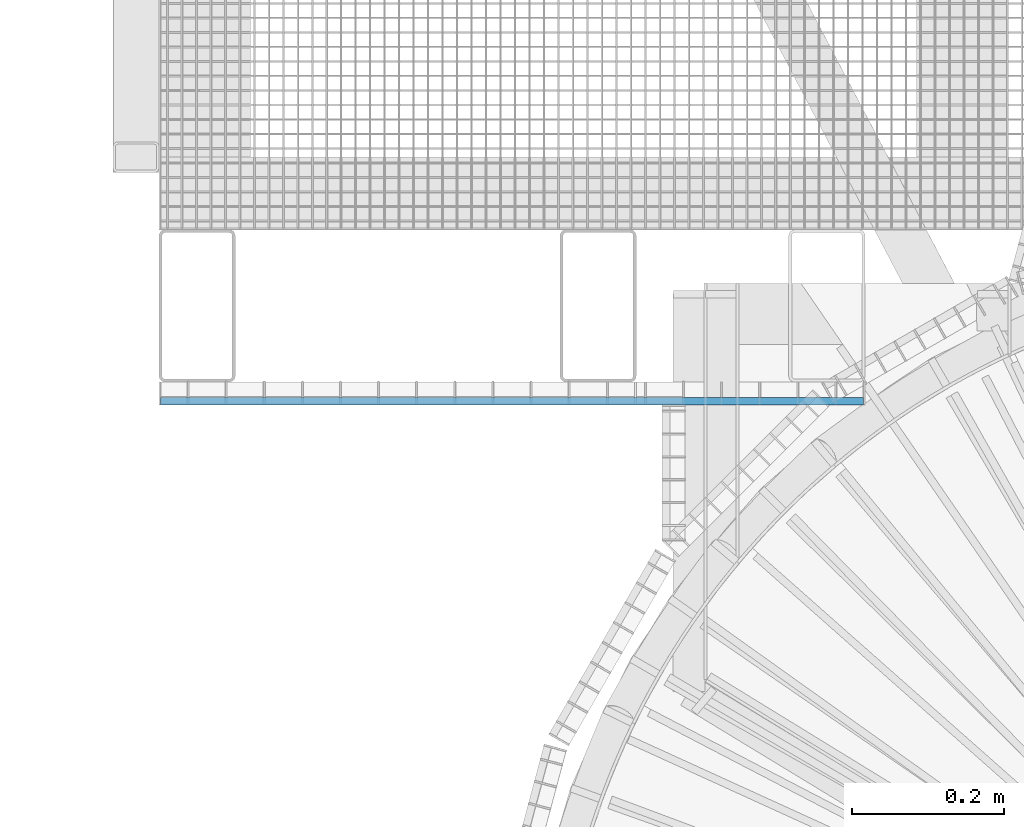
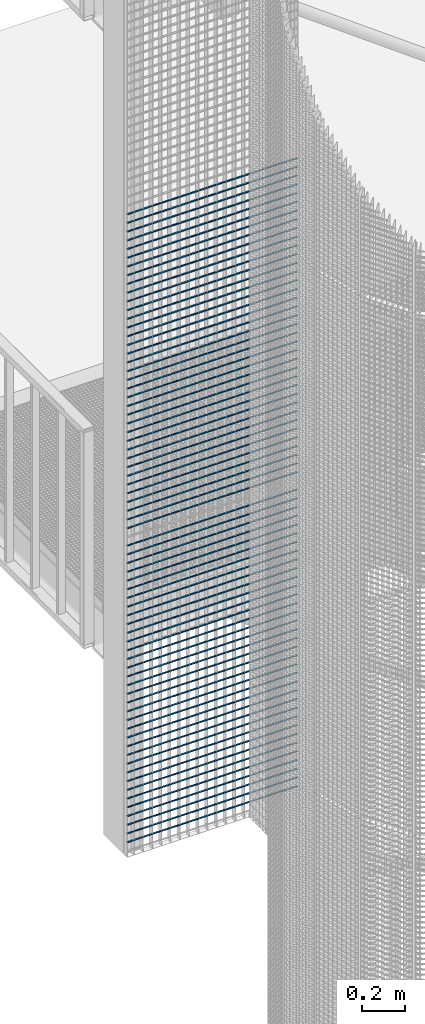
# One storey, part 215 of 1183: 72 beams, 1 element without a shape of its own.
"""IFC2X3 building model written with IfcOpenShell, lengths in millimetres."""

from ifc_helpers import new_model, si_unit, frame, origin_with_axes, origin_2d_with_axis, place, context, subcontext, project, spatial, rectangle, extrude, material, type_object, element, aggregate, save


model = new_model("IFC2X3")

# Units and contexts
model_context = context("Model", 3, precision=1e-05, world=origin_with_axes())
body_context = subcontext(model_context, "Body", "Model", "MODEL_VIEW")
ifc_project = project(units=[si_unit("LENGTHUNIT", "METRE", prefix="MILLI"), si_unit("AREAUNIT", "SQUARE_METRE"), si_unit("VOLUMEUNIT", "CUBIC_METRE"), si_unit("MASSUNIT", "GRAM", prefix="KILO"), si_unit("TIMEUNIT", "SECOND"), si_unit("PLANEANGLEUNIT", "RADIAN"), si_unit("SOLIDANGLEUNIT", "STERADIAN"), si_unit("THERMODYNAMICTEMPERATUREUNIT", "DEGREE_CELSIUS"), si_unit("LUMINOUSINTENSITYUNIT", "LUMEN")], contexts=[model_context])

# Site, building, storey
site_placement = place(None, origin_with_axes())
site = spatial("IfcSite", under=ifc_project, at=site_placement, Name="Undefined", CompositionType="ELEMENT")
building_placement = place(site_placement, origin_with_axes())
building = spatial("IfcBuilding", under=site, at=building_placement, Name="Undefined", CompositionType="ELEMENT")
storey_placement = place(building_placement, origin_with_axes())
storey = spatial("IfcBuildingStorey", under=building, at=storey_placement, Name="Undefined", CompositionType="ELEMENT", Elevation=0.0)

# Assembly, beams
assembly_placement = place(storey_placement, origin_with_axes())
assembly = element("IfcElementAssembly", 1, at=assembly_placement, inside=storey, Name="BORDURE", AssemblyPlace="NOTDEFINED", PredefinedType="NOTDEFINED")
ifc_material = material(Name="STEEL/S235JR")
beam_type = type_object("IfcBeamType", Name="PL2*10", PredefinedType="NOTDEFINED")
beam_1_placement = place(assembly_placement, frame((-1547.92041016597, 874.994689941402, 8854.998), z_axis=(0.0, -1.0, 0.0), x_axis=(1.0, 0.0, 0.0)))
beam_1 = element("IfcBeam", 2, at=beam_1_placement, type_object=beam_type, material=ifc_material, Name="ENTRETOISE", context=body_context, shape_type="SweptSolid", body=[
    extrude(rectangle(XDim=2.0, YDim=10.0, at=origin_2d_with_axis()), frame((922.0, 0.0, 0.0), z_axis=(-1.0, 0.0, 0.0), x_axis=(0.0, -1.0, 0.0)), (0.0, 0.0, 1.0), 922.0),
])
beam_2_placement = place(assembly_placement, frame((-1547.92041016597, 874.994689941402, 8804.998), z_axis=(0.0, -1.0, 0.0), x_axis=(1.0, 0.0, 0.0)))
beam_2 = element("IfcBeam", 3, at=beam_2_placement, type_object=beam_type, material=ifc_material, Name="ENTRETOISE", context=body_context, shape_type="SweptSolid", body=[
    extrude(rectangle(XDim=2.0, YDim=10.0, at=origin_2d_with_axis()), frame((922.0, 0.0, 0.0), z_axis=(-1.0, 0.0, 0.0), x_axis=(0.0, -1.0, 0.0)), (0.0, 0.0, 1.0), 922.0),
])
beam_3_placement = place(assembly_placement, frame((-1547.92041016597, 874.994689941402, 8754.998), z_axis=(0.0, -1.0, 0.0), x_axis=(1.0, 0.0, 0.0)))
beam_3 = element("IfcBeam", 4, at=beam_3_placement, type_object=beam_type, material=ifc_material, Name="ENTRETOISE", context=body_context, shape_type="SweptSolid", body=[
    extrude(rectangle(XDim=2.0, YDim=10.0, at=origin_2d_with_axis()), frame((922.0, 0.0, 0.0), z_axis=(-1.0, 0.0, 0.0), x_axis=(0.0, -1.0, 0.0)), (0.0, 0.0, 1.0), 922.0),
])
beam_4_placement = place(assembly_placement, frame((-1547.92041016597, 874.994689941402, 8704.998), z_axis=(0.0, -1.0, 0.0), x_axis=(1.0, 0.0, 0.0)))
beam_4 = element("IfcBeam", 5, at=beam_4_placement, type_object=beam_type, material=ifc_material, Name="ENTRETOISE", context=body_context, shape_type="SweptSolid", body=[
    extrude(rectangle(XDim=2.0, YDim=10.0, at=origin_2d_with_axis()), frame((922.0, 0.0, 0.0), z_axis=(-1.0, 0.0, 0.0), x_axis=(0.0, -1.0, 0.0)), (0.0, 0.0, 1.0), 922.0),
])
beam_5_placement = place(assembly_placement, frame((-1547.92041016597, 874.994689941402, 8654.998), z_axis=(0.0, -1.0, 0.0), x_axis=(1.0, 0.0, 0.0)))
beam_5 = element("IfcBeam", 6, at=beam_5_placement, type_object=beam_type, material=ifc_material, Name="ENTRETOISE", context=body_context, shape_type="SweptSolid", body=[
    extrude(rectangle(XDim=2.0, YDim=10.0, at=origin_2d_with_axis()), frame((922.0, 0.0, 0.0), z_axis=(-1.0, 0.0, 0.0), x_axis=(0.0, -1.0, 0.0)), (0.0, 0.0, 1.0), 922.0),
])
beam_6_placement = place(assembly_placement, frame((-1547.92041016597, 874.994689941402, 8604.998), z_axis=(0.0, -1.0, 0.0), x_axis=(1.0, 0.0, 0.0)))
beam_6 = element("IfcBeam", 7, at=beam_6_placement, type_object=beam_type, material=ifc_material, Name="ENTRETOISE", context=body_context, shape_type="SweptSolid", body=[
    extrude(rectangle(XDim=2.0, YDim=10.0, at=origin_2d_with_axis()), frame((922.0, 0.0, 0.0), z_axis=(-1.0, 0.0, 0.0), x_axis=(0.0, -1.0, 0.0)), (0.0, 0.0, 1.0), 922.0),
])
beam_7_placement = place(assembly_placement, frame((-1547.92041016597, 874.994689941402, 8554.998), z_axis=(0.0, -1.0, 0.0), x_axis=(1.0, 0.0, 0.0)))
beam_7 = element("IfcBeam", 8, at=beam_7_placement, type_object=beam_type, material=ifc_material, Name="ENTRETOISE", context=body_context, shape_type="SweptSolid", body=[
    extrude(rectangle(XDim=2.0, YDim=10.0, at=origin_2d_with_axis()), frame((922.0, 0.0, 0.0), z_axis=(-1.0, 0.0, 0.0), x_axis=(0.0, -1.0, 0.0)), (0.0, 0.0, 1.0), 922.0),
])
beam_8_placement = place(assembly_placement, frame((-1547.92041016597, 874.994689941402, 8504.998), z_axis=(0.0, -1.0, 0.0), x_axis=(1.0, 0.0, 0.0)))
beam_8 = element("IfcBeam", 9, at=beam_8_placement, type_object=beam_type, material=ifc_material, Name="ENTRETOISE", context=body_context, shape_type="SweptSolid", body=[
    extrude(rectangle(XDim=2.0, YDim=10.0, at=origin_2d_with_axis()), frame((922.0, 0.0, 0.0), z_axis=(-1.0, 0.0, 0.0), x_axis=(0.0, -1.0, 0.0)), (0.0, 0.0, 1.0), 922.0),
])
beam_9_placement = place(assembly_placement, frame((-1547.92041016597, 874.994689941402, 8454.998), z_axis=(0.0, -1.0, 0.0), x_axis=(1.0, 0.0, 0.0)))
beam_9 = element("IfcBeam", 10, at=beam_9_placement, type_object=beam_type, material=ifc_material, Name="ENTRETOISE", context=body_context, shape_type="SweptSolid", body=[
    extrude(rectangle(XDim=2.0, YDim=10.0, at=origin_2d_with_axis()), frame((922.0, 0.0, 0.0), z_axis=(-1.0, 0.0, 0.0), x_axis=(0.0, -1.0, 0.0)), (0.0, 0.0, 1.0), 922.0),
])
beam_10_placement = place(assembly_placement, frame((-1547.92041016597, 874.994689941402, 8404.998), z_axis=(0.0, -1.0, 0.0), x_axis=(1.0, 0.0, 0.0)))
beam_10 = element("IfcBeam", 11, at=beam_10_placement, type_object=beam_type, material=ifc_material, Name="ENTRETOISE", context=body_context, shape_type="SweptSolid", body=[
    extrude(rectangle(XDim=2.0, YDim=10.0, at=origin_2d_with_axis()), frame((922.0, 0.0, 0.0), z_axis=(-1.0, 0.0, 0.0), x_axis=(0.0, -1.0, 0.0)), (0.0, 0.0, 1.0), 922.0),
])
beam_11_placement = place(assembly_placement, frame((-1547.92041016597, 874.994689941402, 8354.998), z_axis=(0.0, -1.0, 0.0), x_axis=(1.0, 0.0, 0.0)))
beam_11 = element("IfcBeam", 12, at=beam_11_placement, type_object=beam_type, material=ifc_material, Name="ENTRETOISE", context=body_context, shape_type="SweptSolid", body=[
    extrude(rectangle(XDim=2.0, YDim=10.0, at=origin_2d_with_axis()), frame((922.0, 0.0, 0.0), z_axis=(-1.0, 0.0, 0.0), x_axis=(0.0, -1.0, 0.0)), (0.0, 0.0, 1.0), 922.0),
])
beam_12_placement = place(assembly_placement, frame((-1547.92041016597, 874.994689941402, 8304.998), z_axis=(0.0, -1.0, 0.0), x_axis=(1.0, 0.0, 0.0)))
beam_12 = element("IfcBeam", 13, at=beam_12_placement, type_object=beam_type, material=ifc_material, Name="ENTRETOISE", context=body_context, shape_type="SweptSolid", body=[
    extrude(rectangle(XDim=2.0, YDim=10.0, at=origin_2d_with_axis()), frame((922.0, 0.0, 0.0), z_axis=(-1.0, 0.0, 0.0), x_axis=(0.0, -1.0, 0.0)), (0.0, 0.0, 1.0), 922.0),
])
beam_13_placement = place(assembly_placement, frame((-1547.92041016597, 874.994689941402, 8254.998), z_axis=(0.0, -1.0, 0.0), x_axis=(1.0, 0.0, 0.0)))
beam_13 = element("IfcBeam", 14, at=beam_13_placement, type_object=beam_type, material=ifc_material, Name="ENTRETOISE", context=body_context, shape_type="SweptSolid", body=[
    extrude(rectangle(XDim=2.0, YDim=10.0, at=origin_2d_with_axis()), frame((922.0, 0.0, 0.0), z_axis=(-1.0, 0.0, 0.0), x_axis=(0.0, -1.0, 0.0)), (0.0, 0.0, 1.0), 922.0),
])
beam_14_placement = place(assembly_placement, frame((-1547.92041016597, 874.994689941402, 8204.998), z_axis=(0.0, -1.0, 0.0), x_axis=(1.0, 0.0, 0.0)))
beam_14 = element("IfcBeam", 15, at=beam_14_placement, type_object=beam_type, material=ifc_material, Name="ENTRETOISE", context=body_context, shape_type="SweptSolid", body=[
    extrude(rectangle(XDim=2.0, YDim=10.0, at=origin_2d_with_axis()), frame((922.0, 0.0, 0.0), z_axis=(-1.0, 0.0, 0.0), x_axis=(0.0, -1.0, 0.0)), (0.0, 0.0, 1.0), 922.0),
])
beam_15_placement = place(assembly_placement, frame((-1547.92041016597, 874.994689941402, 8154.998), z_axis=(0.0, -1.0, 0.0), x_axis=(1.0, 0.0, 0.0)))
beam_15 = element("IfcBeam", 16, at=beam_15_placement, type_object=beam_type, material=ifc_material, Name="ENTRETOISE", context=body_context, shape_type="SweptSolid", body=[
    extrude(rectangle(XDim=2.0, YDim=10.0, at=origin_2d_with_axis()), frame((922.0, 0.0, 0.0), z_axis=(-1.0, 0.0, 0.0), x_axis=(0.0, -1.0, 0.0)), (0.0, 0.0, 1.0), 922.0),
])
beam_16_placement = place(assembly_placement, frame((-1547.92041016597, 874.994689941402, 8104.998), z_axis=(0.0, -1.0, 0.0), x_axis=(1.0, 0.0, 0.0)))
beam_16 = element("IfcBeam", 17, at=beam_16_placement, type_object=beam_type, material=ifc_material, Name="ENTRETOISE", context=body_context, shape_type="SweptSolid", body=[
    extrude(rectangle(XDim=2.0, YDim=10.0, at=origin_2d_with_axis()), frame((922.0, 0.0, 0.0), z_axis=(-1.0, 0.0, 0.0), x_axis=(0.0, -1.0, 0.0)), (0.0, 0.0, 1.0), 922.0),
])
beam_17_placement = place(assembly_placement, frame((-1547.92041016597, 874.994689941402, 8054.998), z_axis=(0.0, -1.0, 0.0), x_axis=(1.0, 0.0, 0.0)))
beam_17 = element("IfcBeam", 18, at=beam_17_placement, type_object=beam_type, material=ifc_material, Name="ENTRETOISE", context=body_context, shape_type="SweptSolid", body=[
    extrude(rectangle(XDim=2.0, YDim=10.0, at=origin_2d_with_axis()), frame((922.0, 0.0, 0.0), z_axis=(-1.0, 0.0, 0.0), x_axis=(0.0, -1.0, 0.0)), (0.0, 0.0, 1.0), 922.0),
])
beam_18_placement = place(assembly_placement, frame((-1547.92041016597, 874.994689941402, 8004.998), z_axis=(0.0, -1.0, 0.0), x_axis=(1.0, 0.0, 0.0)))
beam_18 = element("IfcBeam", 19, at=beam_18_placement, type_object=beam_type, material=ifc_material, Name="ENTRETOISE", context=body_context, shape_type="SweptSolid", body=[
    extrude(rectangle(XDim=2.0, YDim=10.0, at=origin_2d_with_axis()), frame((922.0, 0.0, 0.0), z_axis=(-1.0, 0.0, 0.0), x_axis=(0.0, -1.0, 0.0)), (0.0, 0.0, 1.0), 922.0),
])
beam_19_placement = place(assembly_placement, frame((-1547.92041016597, 874.994689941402, 7954.998), z_axis=(0.0, -1.0, 0.0), x_axis=(1.0, 0.0, 0.0)))
beam_19 = element("IfcBeam", 20, at=beam_19_placement, type_object=beam_type, material=ifc_material, Name="ENTRETOISE", context=body_context, shape_type="SweptSolid", body=[
    extrude(rectangle(XDim=2.0, YDim=10.0, at=origin_2d_with_axis()), frame((922.0, 0.0, 0.0), z_axis=(-1.0, 0.0, 0.0), x_axis=(0.0, -1.0, 0.0)), (0.0, 0.0, 1.0), 922.0),
])
beam_20_placement = place(assembly_placement, frame((-1547.92041016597, 874.994689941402, 7904.998), z_axis=(0.0, -1.0, 0.0), x_axis=(1.0, 0.0, 0.0)))
beam_20 = element("IfcBeam", 21, at=beam_20_placement, type_object=beam_type, material=ifc_material, Name="ENTRETOISE", context=body_context, shape_type="SweptSolid", body=[
    extrude(rectangle(XDim=2.0, YDim=10.0, at=origin_2d_with_axis()), frame((922.0, 0.0, 0.0), z_axis=(-1.0, 0.0, 0.0), x_axis=(0.0, -1.0, 0.0)), (0.0, 0.0, 1.0), 922.0),
])
beam_21_placement = place(assembly_placement, frame((-1547.92041016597, 874.994689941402, 7854.998), z_axis=(0.0, -1.0, 0.0), x_axis=(1.0, 0.0, 0.0)))
beam_21 = element("IfcBeam", 22, at=beam_21_placement, type_object=beam_type, material=ifc_material, Name="ENTRETOISE", context=body_context, shape_type="SweptSolid", body=[
    extrude(rectangle(XDim=2.0, YDim=10.0, at=origin_2d_with_axis()), frame((922.0, 0.0, 0.0), z_axis=(-1.0, 0.0, 0.0), x_axis=(0.0, -1.0, 0.0)), (0.0, 0.0, 1.0), 922.0),
])
beam_22_placement = place(assembly_placement, frame((-1547.92041016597, 874.994689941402, 7804.998), z_axis=(0.0, -1.0, 0.0), x_axis=(1.0, 0.0, 0.0)))
beam_22 = element("IfcBeam", 23, at=beam_22_placement, type_object=beam_type, material=ifc_material, Name="ENTRETOISE", context=body_context, shape_type="SweptSolid", body=[
    extrude(rectangle(XDim=2.0, YDim=10.0, at=origin_2d_with_axis()), frame((922.0, 0.0, 0.0), z_axis=(-1.0, 0.0, 0.0), x_axis=(0.0, -1.0, 0.0)), (0.0, 0.0, 1.0), 922.0),
])
beam_23_placement = place(assembly_placement, frame((-1547.92041016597, 874.994689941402, 7754.998), z_axis=(0.0, -1.0, 0.0), x_axis=(1.0, 0.0, 0.0)))
beam_23 = element("IfcBeam", 24, at=beam_23_placement, type_object=beam_type, material=ifc_material, Name="ENTRETOISE", context=body_context, shape_type="SweptSolid", body=[
    extrude(rectangle(XDim=2.0, YDim=10.0, at=origin_2d_with_axis()), frame((922.0, 0.0, 0.0), z_axis=(-1.0, 0.0, 0.0), x_axis=(0.0, -1.0, 0.0)), (0.0, 0.0, 1.0), 922.0),
])
beam_24_placement = place(assembly_placement, frame((-1547.92041016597, 874.994689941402, 7704.998), z_axis=(0.0, -1.0, 0.0), x_axis=(1.0, 0.0, 0.0)))
beam_24 = element("IfcBeam", 25, at=beam_24_placement, type_object=beam_type, material=ifc_material, Name="ENTRETOISE", context=body_context, shape_type="SweptSolid", body=[
    extrude(rectangle(XDim=2.0, YDim=10.0, at=origin_2d_with_axis()), frame((922.0, 0.0, 0.0), z_axis=(-1.0, 0.0, 0.0), x_axis=(0.0, -1.0, 0.0)), (0.0, 0.0, 1.0), 922.0),
])
beam_25_placement = place(assembly_placement, frame((-1547.92041016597, 874.994689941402, 7654.998), z_axis=(0.0, -1.0, 0.0), x_axis=(1.0, 0.0, 0.0)))
beam_25 = element("IfcBeam", 26, at=beam_25_placement, type_object=beam_type, material=ifc_material, Name="ENTRETOISE", context=body_context, shape_type="SweptSolid", body=[
    extrude(rectangle(XDim=2.0, YDim=10.0, at=origin_2d_with_axis()), frame((922.0, 0.0, 0.0), z_axis=(-1.0, 0.0, 0.0), x_axis=(0.0, -1.0, 0.0)), (0.0, 0.0, 1.0), 922.0),
])
beam_26_placement = place(assembly_placement, frame((-1547.92041016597, 874.994689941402, 7604.998), z_axis=(0.0, -1.0, 0.0), x_axis=(1.0, 0.0, 0.0)))
beam_26 = element("IfcBeam", 27, at=beam_26_placement, type_object=beam_type, material=ifc_material, Name="ENTRETOISE", context=body_context, shape_type="SweptSolid", body=[
    extrude(rectangle(XDim=2.0, YDim=10.0, at=origin_2d_with_axis()), frame((922.0, 0.0, 0.0), z_axis=(-1.0, 0.0, 0.0), x_axis=(0.0, -1.0, 0.0)), (0.0, 0.0, 1.0), 922.0),
])
beam_27_placement = place(assembly_placement, frame((-1547.92041016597, 874.994689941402, 7554.998), z_axis=(0.0, -1.0, 0.0), x_axis=(1.0, 0.0, 0.0)))
beam_27 = element("IfcBeam", 28, at=beam_27_placement, type_object=beam_type, material=ifc_material, Name="ENTRETOISE", context=body_context, shape_type="SweptSolid", body=[
    extrude(rectangle(XDim=2.0, YDim=10.0, at=origin_2d_with_axis()), frame((922.0, 0.0, 0.0), z_axis=(-1.0, 0.0, 0.0), x_axis=(0.0, -1.0, 0.0)), (0.0, 0.0, 1.0), 922.0),
])
beam_28_placement = place(assembly_placement, frame((-1547.92041016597, 874.994689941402, 7504.998), z_axis=(0.0, -1.0, 0.0), x_axis=(1.0, 0.0, 0.0)))
beam_28 = element("IfcBeam", 29, at=beam_28_placement, type_object=beam_type, material=ifc_material, Name="ENTRETOISE", context=body_context, shape_type="SweptSolid", body=[
    extrude(rectangle(XDim=2.0, YDim=10.0, at=origin_2d_with_axis()), frame((922.0, 0.0, 0.0), z_axis=(-1.0, 0.0, 0.0), x_axis=(0.0, -1.0, 0.0)), (0.0, 0.0, 1.0), 922.0),
])
beam_29_placement = place(assembly_placement, frame((-1547.92041016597, 874.994689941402, 7454.998), z_axis=(0.0, -1.0, 0.0), x_axis=(1.0, 0.0, 0.0)))
beam_29 = element("IfcBeam", 30, at=beam_29_placement, type_object=beam_type, material=ifc_material, Name="ENTRETOISE", context=body_context, shape_type="SweptSolid", body=[
    extrude(rectangle(XDim=2.0, YDim=10.0, at=origin_2d_with_axis()), frame((922.0, 0.0, 0.0), z_axis=(-1.0, 0.0, 0.0), x_axis=(0.0, -1.0, 0.0)), (0.0, 0.0, 1.0), 922.0),
])
beam_30_placement = place(assembly_placement, frame((-1547.92041016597, 874.994689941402, 7404.998), z_axis=(0.0, -1.0, 0.0), x_axis=(1.0, 0.0, 0.0)))
beam_30 = element("IfcBeam", 31, at=beam_30_placement, type_object=beam_type, material=ifc_material, Name="ENTRETOISE", context=body_context, shape_type="SweptSolid", body=[
    extrude(rectangle(XDim=2.0, YDim=10.0, at=origin_2d_with_axis()), frame((922.0, 0.0, 0.0), z_axis=(-1.0, 0.0, 0.0), x_axis=(0.0, -1.0, 0.0)), (0.0, 0.0, 1.0), 922.0),
])
beam_31_placement = place(assembly_placement, frame((-1547.92041016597, 874.994689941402, 7354.998), z_axis=(0.0, -1.0, 0.0), x_axis=(1.0, 0.0, 0.0)))
beam_31 = element("IfcBeam", 32, at=beam_31_placement, type_object=beam_type, material=ifc_material, Name="ENTRETOISE", context=body_context, shape_type="SweptSolid", body=[
    extrude(rectangle(XDim=2.0, YDim=10.0, at=origin_2d_with_axis()), frame((922.0, 0.0, 0.0), z_axis=(-1.0, 0.0, 0.0), x_axis=(0.0, -1.0, 0.0)), (0.0, 0.0, 1.0), 922.0),
])
beam_32_placement = place(assembly_placement, frame((-1547.92041016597, 874.994689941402, 7304.998), z_axis=(0.0, -1.0, 0.0), x_axis=(1.0, 0.0, 0.0)))
beam_32 = element("IfcBeam", 33, at=beam_32_placement, type_object=beam_type, material=ifc_material, Name="ENTRETOISE", context=body_context, shape_type="SweptSolid", body=[
    extrude(rectangle(XDim=2.0, YDim=10.0, at=origin_2d_with_axis()), frame((922.0, 0.0, 0.0), z_axis=(-1.0, 0.0, 0.0), x_axis=(0.0, -1.0, 0.0)), (0.0, 0.0, 1.0), 922.0),
])
beam_33_placement = place(assembly_placement, frame((-1547.92041016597, 874.994689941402, 7254.998), z_axis=(0.0, -1.0, 0.0), x_axis=(1.0, 0.0, 0.0)))
beam_33 = element("IfcBeam", 34, at=beam_33_placement, type_object=beam_type, material=ifc_material, Name="ENTRETOISE", context=body_context, shape_type="SweptSolid", body=[
    extrude(rectangle(XDim=2.0, YDim=10.0, at=origin_2d_with_axis()), frame((922.0, 0.0, 0.0), z_axis=(-1.0, 0.0, 0.0), x_axis=(0.0, -1.0, 0.0)), (0.0, 0.0, 1.0), 922.0),
])
beam_34_placement = place(assembly_placement, frame((-1547.92041016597, 874.994689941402, 7204.998), z_axis=(0.0, -1.0, 0.0), x_axis=(1.0, 0.0, 0.0)))
beam_34 = element("IfcBeam", 35, at=beam_34_placement, type_object=beam_type, material=ifc_material, Name="ENTRETOISE", context=body_context, shape_type="SweptSolid", body=[
    extrude(rectangle(XDim=2.0, YDim=10.0, at=origin_2d_with_axis()), frame((922.0, 0.0, 0.0), z_axis=(-1.0, 0.0, 0.0), x_axis=(0.0, -1.0, 0.0)), (0.0, 0.0, 1.0), 922.0),
])
beam_35_placement = place(assembly_placement, frame((-1547.92041016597, 874.994689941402, 7154.998), z_axis=(0.0, -1.0, 0.0), x_axis=(1.0, 0.0, 0.0)))
beam_35 = element("IfcBeam", 36, at=beam_35_placement, type_object=beam_type, material=ifc_material, Name="ENTRETOISE", context=body_context, shape_type="SweptSolid", body=[
    extrude(rectangle(XDim=2.0, YDim=10.0, at=origin_2d_with_axis()), frame((922.0, 0.0, 0.0), z_axis=(-1.0, 0.0, 0.0), x_axis=(0.0, -1.0, 0.0)), (0.0, 0.0, 1.0), 922.0),
])
beam_36_placement = place(assembly_placement, frame((-1547.92041016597, 874.994689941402, 7104.998), z_axis=(0.0, -1.0, 0.0), x_axis=(1.0, 0.0, 0.0)))
beam_36 = element("IfcBeam", 37, at=beam_36_placement, type_object=beam_type, material=ifc_material, Name="ENTRETOISE", context=body_context, shape_type="SweptSolid", body=[
    extrude(rectangle(XDim=2.0, YDim=10.0, at=origin_2d_with_axis()), frame((922.0, 0.0, 0.0), z_axis=(-1.0, 0.0, 0.0), x_axis=(0.0, -1.0, 0.0)), (0.0, 0.0, 1.0), 922.0),
])
beam_37_placement = place(assembly_placement, frame((-1547.92041016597, 874.994689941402, 7054.998), z_axis=(0.0, -1.0, 0.0), x_axis=(1.0, 0.0, 0.0)))
beam_37 = element("IfcBeam", 38, at=beam_37_placement, type_object=beam_type, material=ifc_material, Name="ENTRETOISE", context=body_context, shape_type="SweptSolid", body=[
    extrude(rectangle(XDim=2.0, YDim=10.0, at=origin_2d_with_axis()), frame((922.0, 0.0, 0.0), z_axis=(-1.0, 0.0, 0.0), x_axis=(0.0, -1.0, 0.0)), (0.0, 0.0, 1.0), 922.0),
])
beam_38_placement = place(assembly_placement, frame((-1547.92041016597, 874.994689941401, 5904.998), z_axis=(0.0, -1.0, 0.0), x_axis=(1.0, 0.0, 0.0)))
beam_38 = element("IfcBeam", 39, at=beam_38_placement, type_object=beam_type, material=ifc_material, Name="ENTRETOISE", context=body_context, shape_type="SweptSolid", body=[
    extrude(rectangle(XDim=2.0, YDim=10.0, at=origin_2d_with_axis()), frame((922.0, 0.0, 0.0), z_axis=(-1.0, 0.0, 0.0), x_axis=(0.0, -1.0, 0.0)), (0.0, 0.0, 1.0), 922.0),
])
beam_39_placement = place(assembly_placement, frame((-1547.92041016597, 874.994689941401, 5954.998), z_axis=(0.0, -1.0, 0.0), x_axis=(1.0, 0.0, 0.0)))
beam_39 = element("IfcBeam", 40, at=beam_39_placement, type_object=beam_type, material=ifc_material, Name="ENTRETOISE", context=body_context, shape_type="SweptSolid", body=[
    extrude(rectangle(XDim=2.0, YDim=10.0, at=origin_2d_with_axis()), frame((922.0, 0.0, 0.0), z_axis=(-1.0, 0.0, 0.0), x_axis=(0.0, -1.0, 0.0)), (0.0, 0.0, 1.0), 922.0),
])
beam_40_placement = place(assembly_placement, frame((-1547.92041016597, 874.994689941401, 5854.998), z_axis=(0.0, -1.0, 0.0), x_axis=(1.0, 0.0, 0.0)))
beam_40 = element("IfcBeam", 41, at=beam_40_placement, type_object=beam_type, material=ifc_material, Name="ENTRETOISE", context=body_context, shape_type="SweptSolid", body=[
    extrude(rectangle(XDim=2.0, YDim=10.0, at=origin_2d_with_axis()), frame((922.0, 0.0, 0.0), z_axis=(-1.0, 0.0, 0.0), x_axis=(0.0, -1.0, 0.0)), (0.0, 0.0, 1.0), 922.0),
])
beam_41_placement = place(assembly_placement, frame((-1547.92041016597, 874.994689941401, 6004.998), z_axis=(0.0, -1.0, 0.0), x_axis=(1.0, 0.0, 0.0)))
beam_41 = element("IfcBeam", 42, at=beam_41_placement, type_object=beam_type, material=ifc_material, Name="ENTRETOISE", context=body_context, shape_type="SweptSolid", body=[
    extrude(rectangle(XDim=2.0, YDim=10.0, at=origin_2d_with_axis()), frame((922.0, 0.0, 0.0), z_axis=(-1.0, 0.0, 0.0), x_axis=(0.0, -1.0, 0.0)), (0.0, 0.0, 1.0), 922.0),
])
beam_42_placement = place(assembly_placement, frame((-1547.92041016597, 874.994689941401, 5804.998), z_axis=(0.0, -1.0, 0.0), x_axis=(1.0, 0.0, 0.0)))
beam_42 = element("IfcBeam", 43, at=beam_42_placement, type_object=beam_type, material=ifc_material, Name="ENTRETOISE", context=body_context, shape_type="SweptSolid", body=[
    extrude(rectangle(XDim=2.0, YDim=10.0, at=origin_2d_with_axis()), frame((922.0, 0.0, 0.0), z_axis=(-1.0, 0.0, 0.0), x_axis=(0.0, -1.0, 0.0)), (0.0, 0.0, 1.0), 922.0),
])
beam_43_placement = place(assembly_placement, frame((-1547.92041016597, 874.994689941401, 6054.998), z_axis=(0.0, -1.0, 0.0), x_axis=(1.0, 0.0, 0.0)))
beam_43 = element("IfcBeam", 44, at=beam_43_placement, type_object=beam_type, material=ifc_material, Name="ENTRETOISE", context=body_context, shape_type="SweptSolid", body=[
    extrude(rectangle(XDim=2.0, YDim=10.0, at=origin_2d_with_axis()), frame((922.0, 0.0, 0.0), z_axis=(-1.0, 0.0, 0.0), x_axis=(0.0, -1.0, 0.0)), (0.0, 0.0, 1.0), 922.0),
])
beam_44_placement = place(assembly_placement, frame((-1547.92041016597, 874.994689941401, 6104.998), z_axis=(0.0, -1.0, 0.0), x_axis=(1.0, 0.0, 0.0)))
beam_44 = element("IfcBeam", 45, at=beam_44_placement, type_object=beam_type, material=ifc_material, Name="ENTRETOISE", context=body_context, shape_type="SweptSolid", body=[
    extrude(rectangle(XDim=2.0, YDim=10.0, at=origin_2d_with_axis()), frame((922.0, 0.0, 0.0), z_axis=(-1.0, 0.0, 0.0), x_axis=(0.0, -1.0, 0.0)), (0.0, 0.0, 1.0), 922.0),
])
beam_45_placement = place(assembly_placement, frame((-1547.92041016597, 874.994689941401, 5754.998), z_axis=(0.0, -1.0, 0.0), x_axis=(1.0, 0.0, 0.0)))
beam_45 = element("IfcBeam", 46, at=beam_45_placement, type_object=beam_type, material=ifc_material, Name="ENTRETOISE", context=body_context, shape_type="SweptSolid", body=[
    extrude(rectangle(XDim=2.0, YDim=10.0, at=origin_2d_with_axis()), frame((922.0, 0.0, 0.0), z_axis=(-1.0, 0.0, 0.0), x_axis=(0.0, -1.0, 0.0)), (0.0, 0.0, 1.0), 922.0),
])
beam_46_placement = place(assembly_placement, frame((-1547.92041016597, 874.994689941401, 6154.998), z_axis=(0.0, -1.0, 0.0), x_axis=(1.0, 0.0, 0.0)))
beam_46 = element("IfcBeam", 47, at=beam_46_placement, type_object=beam_type, material=ifc_material, Name="ENTRETOISE", context=body_context, shape_type="SweptSolid", body=[
    extrude(rectangle(XDim=2.0, YDim=10.0, at=origin_2d_with_axis()), frame((922.0, 0.0, 0.0), z_axis=(-1.0, 0.0, 0.0), x_axis=(0.0, -1.0, 0.0)), (0.0, 0.0, 1.0), 922.0),
])
beam_47_placement = place(assembly_placement, frame((-1547.92041016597, 874.994689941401, 6204.998), z_axis=(0.0, -1.0, 0.0), x_axis=(1.0, 0.0, 0.0)))
beam_47 = element("IfcBeam", 48, at=beam_47_placement, type_object=beam_type, material=ifc_material, Name="ENTRETOISE", context=body_context, shape_type="SweptSolid", body=[
    extrude(rectangle(XDim=2.0, YDim=10.0, at=origin_2d_with_axis()), frame((922.0, 0.0, 0.0), z_axis=(-1.0, 0.0, 0.0), x_axis=(0.0, -1.0, 0.0)), (0.0, 0.0, 1.0), 922.0),
])
beam_48_placement = place(assembly_placement, frame((-1547.92041016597, 874.994689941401, 5704.998), z_axis=(0.0, -1.0, 0.0), x_axis=(1.0, 0.0, 0.0)))
beam_48 = element("IfcBeam", 49, at=beam_48_placement, type_object=beam_type, material=ifc_material, Name="ENTRETOISE", context=body_context, shape_type="SweptSolid", body=[
    extrude(rectangle(XDim=2.0, YDim=10.0, at=origin_2d_with_axis()), frame((922.0, 0.0, 0.0), z_axis=(-1.0, 0.0, 0.0), x_axis=(0.0, -1.0, 0.0)), (0.0, 0.0, 1.0), 922.0),
])
beam_49_placement = place(assembly_placement, frame((-1547.92041016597, 874.994689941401, 6254.998), z_axis=(0.0, -1.0, 0.0), x_axis=(1.0, 0.0, 0.0)))
beam_49 = element("IfcBeam", 50, at=beam_49_placement, type_object=beam_type, material=ifc_material, Name="ENTRETOISE", context=body_context, shape_type="SweptSolid", body=[
    extrude(rectangle(XDim=2.0, YDim=10.0, at=origin_2d_with_axis()), frame((922.0, 0.0, 0.0), z_axis=(-1.0, 0.0, 0.0), x_axis=(0.0, -1.0, 0.0)), (0.0, 0.0, 1.0), 922.0),
])
beam_50_placement = place(assembly_placement, frame((-1547.92041016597, 874.994689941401, 5654.998), z_axis=(0.0, -1.0, 0.0), x_axis=(1.0, 0.0, 0.0)))
beam_50 = element("IfcBeam", 51, at=beam_50_placement, type_object=beam_type, material=ifc_material, Name="ENTRETOISE", context=body_context, shape_type="SweptSolid", body=[
    extrude(rectangle(XDim=2.0, YDim=10.0, at=origin_2d_with_axis()), frame((922.0, 0.0, 0.0), z_axis=(-1.0, 0.0, 0.0), x_axis=(0.0, -1.0, 0.0)), (0.0, 0.0, 1.0), 922.0),
])
beam_51_placement = place(assembly_placement, frame((-1547.92041016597, 874.994689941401, 6304.998), z_axis=(0.0, -1.0, 0.0), x_axis=(1.0, 0.0, 0.0)))
beam_51 = element("IfcBeam", 52, at=beam_51_placement, type_object=beam_type, material=ifc_material, Name="ENTRETOISE", context=body_context, shape_type="SweptSolid", body=[
    extrude(rectangle(XDim=2.0, YDim=10.0, at=origin_2d_with_axis()), frame((922.0, 0.0, 0.0), z_axis=(-1.0, 0.0, 0.0), x_axis=(0.0, -1.0, 0.0)), (0.0, 0.0, 1.0), 922.0),
])
beam_52_placement = place(assembly_placement, frame((-1547.92041016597, 874.994689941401, 6354.998), z_axis=(0.0, -1.0, 0.0), x_axis=(1.0, 0.0, 0.0)))
beam_52 = element("IfcBeam", 53, at=beam_52_placement, type_object=beam_type, material=ifc_material, Name="ENTRETOISE", context=body_context, shape_type="SweptSolid", body=[
    extrude(rectangle(XDim=2.0, YDim=10.0, at=origin_2d_with_axis()), frame((922.0, 0.0, 0.0), z_axis=(-1.0, 0.0, 0.0), x_axis=(0.0, -1.0, 0.0)), (0.0, 0.0, 1.0), 922.0),
])
beam_53_placement = place(assembly_placement, frame((-1547.92041016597, 874.994689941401, 5604.998), z_axis=(0.0, -1.0, 0.0), x_axis=(1.0, 0.0, 0.0)))
beam_53 = element("IfcBeam", 54, at=beam_53_placement, type_object=beam_type, material=ifc_material, Name="ENTRETOISE", context=body_context, shape_type="SweptSolid", body=[
    extrude(rectangle(XDim=2.0, YDim=10.0, at=origin_2d_with_axis()), frame((922.0, 0.0, 0.0), z_axis=(-1.0, 0.0, 0.0), x_axis=(0.0, -1.0, 0.0)), (0.0, 0.0, 1.0), 922.0),
])
beam_54_placement = place(assembly_placement, frame((-1547.92041016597, 874.994689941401, 6404.998), z_axis=(0.0, -1.0, 0.0), x_axis=(1.0, 0.0, 0.0)))
beam_54 = element("IfcBeam", 55, at=beam_54_placement, type_object=beam_type, material=ifc_material, Name="ENTRETOISE", context=body_context, shape_type="SweptSolid", body=[
    extrude(rectangle(XDim=2.0, YDim=10.0, at=origin_2d_with_axis()), frame((922.0, 0.0, 0.0), z_axis=(-1.0, 0.0, 0.0), x_axis=(0.0, -1.0, 0.0)), (0.0, 0.0, 1.0), 922.0),
])
beam_55_placement = place(assembly_placement, frame((-1547.92041016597, 874.994689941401, 6454.998), z_axis=(0.0, -1.0, 0.0), x_axis=(1.0, 0.0, 0.0)))
beam_55 = element("IfcBeam", 56, at=beam_55_placement, type_object=beam_type, material=ifc_material, Name="ENTRETOISE", context=body_context, shape_type="SweptSolid", body=[
    extrude(rectangle(XDim=2.0, YDim=10.0, at=origin_2d_with_axis()), frame((922.0, 0.0, 0.0), z_axis=(-1.0, 0.0, 0.0), x_axis=(0.0, -1.0, 0.0)), (0.0, 0.0, 1.0), 922.0),
])
beam_56_placement = place(assembly_placement, frame((-1547.92041016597, 874.994689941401, 5554.998), z_axis=(0.0, -1.0, 0.0), x_axis=(1.0, 0.0, 0.0)))
beam_56 = element("IfcBeam", 57, at=beam_56_placement, type_object=beam_type, material=ifc_material, Name="ENTRETOISE", context=body_context, shape_type="SweptSolid", body=[
    extrude(rectangle(XDim=2.0, YDim=10.0, at=origin_2d_with_axis()), frame((922.0, 0.0, 0.0), z_axis=(-1.0, 0.0, 0.0), x_axis=(0.0, -1.0, 0.0)), (0.0, 0.0, 1.0), 922.0),
])
beam_57_placement = place(assembly_placement, frame((-1547.92041016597, 874.994689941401, 6504.998), z_axis=(0.0, -1.0, 0.0), x_axis=(1.0, 0.0, 0.0)))
beam_57 = element("IfcBeam", 58, at=beam_57_placement, type_object=beam_type, material=ifc_material, Name="ENTRETOISE", context=body_context, shape_type="SweptSolid", body=[
    extrude(rectangle(XDim=2.0, YDim=10.0, at=origin_2d_with_axis()), frame((922.0, 0.0, 0.0), z_axis=(-1.0, 0.0, 0.0), x_axis=(0.0, -1.0, 0.0)), (0.0, 0.0, 1.0), 922.0),
])
beam_58_placement = place(assembly_placement, frame((-1547.92041016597, 874.994689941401, 5504.998), z_axis=(0.0, -1.0, 0.0), x_axis=(1.0, 0.0, 0.0)))
beam_58 = element("IfcBeam", 59, at=beam_58_placement, type_object=beam_type, material=ifc_material, Name="ENTRETOISE", context=body_context, shape_type="SweptSolid", body=[
    extrude(rectangle(XDim=2.0, YDim=10.0, at=origin_2d_with_axis()), frame((922.0, 0.0, 0.0), z_axis=(-1.0, 0.0, 0.0), x_axis=(0.0, -1.0, 0.0)), (0.0, 0.0, 1.0), 922.0),
])
beam_59_placement = place(assembly_placement, frame((-1547.92041016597, 874.994689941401, 6554.998), z_axis=(0.0, -1.0, 0.0), x_axis=(1.0, 0.0, 0.0)))
beam_59 = element("IfcBeam", 60, at=beam_59_placement, type_object=beam_type, material=ifc_material, Name="ENTRETOISE", context=body_context, shape_type="SweptSolid", body=[
    extrude(rectangle(XDim=2.0, YDim=10.0, at=origin_2d_with_axis()), frame((922.0, 0.0, 0.0), z_axis=(-1.0, 0.0, 0.0), x_axis=(0.0, -1.0, 0.0)), (0.0, 0.0, 1.0), 922.0),
])
beam_60_placement = place(assembly_placement, frame((-1547.92041016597, 874.994689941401, 6604.998), z_axis=(0.0, -1.0, 0.0), x_axis=(1.0, 0.0, 0.0)))
beam_60 = element("IfcBeam", 61, at=beam_60_placement, type_object=beam_type, material=ifc_material, Name="ENTRETOISE", context=body_context, shape_type="SweptSolid", body=[
    extrude(rectangle(XDim=2.0, YDim=10.0, at=origin_2d_with_axis()), frame((922.0, 0.0, 0.0), z_axis=(-1.0, 0.0, 0.0), x_axis=(0.0, -1.0, 0.0)), (0.0, 0.0, 1.0), 922.0),
])
beam_61_placement = place(assembly_placement, frame((-1547.92041016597, 874.994689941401, 5454.998), z_axis=(0.0, -1.0, 0.0), x_axis=(1.0, 0.0, 0.0)))
beam_61 = element("IfcBeam", 62, at=beam_61_placement, type_object=beam_type, material=ifc_material, Name="ENTRETOISE", context=body_context, shape_type="SweptSolid", body=[
    extrude(rectangle(XDim=2.0, YDim=10.0, at=origin_2d_with_axis()), frame((922.0, 0.0, 0.0), z_axis=(-1.0, 0.0, 0.0), x_axis=(0.0, -1.0, 0.0)), (0.0, 0.0, 1.0), 922.0),
])
beam_62_placement = place(assembly_placement, frame((-1547.92041016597, 874.994689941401, 6654.998), z_axis=(0.0, -1.0, 0.0), x_axis=(1.0, 0.0, 0.0)))
beam_62 = element("IfcBeam", 63, at=beam_62_placement, type_object=beam_type, material=ifc_material, Name="ENTRETOISE", context=body_context, shape_type="SweptSolid", body=[
    extrude(rectangle(XDim=2.0, YDim=10.0, at=origin_2d_with_axis()), frame((922.0, 0.0, 0.0), z_axis=(-1.0, 0.0, 0.0), x_axis=(0.0, -1.0, 0.0)), (0.0, 0.0, 1.0), 922.0),
])
beam_63_placement = place(assembly_placement, frame((-1547.92041016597, 874.994689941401, 5404.998), z_axis=(0.0, -1.0, 0.0), x_axis=(1.0, 0.0, 0.0)))
beam_63 = element("IfcBeam", 64, at=beam_63_placement, type_object=beam_type, material=ifc_material, Name="ENTRETOISE", context=body_context, shape_type="SweptSolid", body=[
    extrude(rectangle(XDim=2.0, YDim=10.0, at=origin_2d_with_axis()), frame((922.0, 0.0, 0.0), z_axis=(-1.0, 0.0, 0.0), x_axis=(0.0, -1.0, 0.0)), (0.0, 0.0, 1.0), 922.0),
])
beam_64_placement = place(assembly_placement, frame((-1547.92041016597, 874.994689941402, 6704.998), z_axis=(0.0, -1.0, 0.0), x_axis=(1.0, 0.0, 0.0)))
beam_64 = element("IfcBeam", 65, at=beam_64_placement, type_object=beam_type, material=ifc_material, Name="ENTRETOISE", context=body_context, shape_type="SweptSolid", body=[
    extrude(rectangle(XDim=2.0, YDim=10.0, at=origin_2d_with_axis()), frame((922.0, 0.0, 0.0), z_axis=(-1.0, 0.0, 0.0), x_axis=(0.0, -1.0, 0.0)), (0.0, 0.0, 1.0), 922.0),
])
beam_65_placement = place(assembly_placement, frame((-1547.92041016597, 874.994689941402, 6754.998), z_axis=(0.0, -1.0, 0.0), x_axis=(1.0, 0.0, 0.0)))
beam_65 = element("IfcBeam", 66, at=beam_65_placement, type_object=beam_type, material=ifc_material, Name="ENTRETOISE", context=body_context, shape_type="SweptSolid", body=[
    extrude(rectangle(XDim=2.0, YDim=10.0, at=origin_2d_with_axis()), frame((922.0, 0.0, 0.0), z_axis=(-1.0, 0.0, 0.0), x_axis=(0.0, -1.0, 0.0)), (0.0, 0.0, 1.0), 922.0),
])
beam_66_placement = place(assembly_placement, frame((-1547.92041016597, 874.994689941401, 5354.998), z_axis=(0.0, -1.0, 0.0), x_axis=(1.0, 0.0, 0.0)))
beam_66 = element("IfcBeam", 67, at=beam_66_placement, type_object=beam_type, material=ifc_material, Name="ENTRETOISE", context=body_context, shape_type="SweptSolid", body=[
    extrude(rectangle(XDim=2.0, YDim=10.0, at=origin_2d_with_axis()), frame((922.0, 0.0, 0.0), z_axis=(-1.0, 0.0, 0.0), x_axis=(0.0, -1.0, 0.0)), (0.0, 0.0, 1.0), 922.0),
])
beam_67_placement = place(assembly_placement, frame((-1547.92041016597, 874.994689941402, 6804.998), z_axis=(0.0, -1.0, 0.0), x_axis=(1.0, 0.0, 0.0)))
beam_67 = element("IfcBeam", 68, at=beam_67_placement, type_object=beam_type, material=ifc_material, Name="ENTRETOISE", context=body_context, shape_type="SweptSolid", body=[
    extrude(rectangle(XDim=2.0, YDim=10.0, at=origin_2d_with_axis()), frame((922.0, 0.0, 0.0), z_axis=(-1.0, 0.0, 0.0), x_axis=(0.0, -1.0, 0.0)), (0.0, 0.0, 1.0), 922.0),
])
beam_68_placement = place(assembly_placement, frame((-1547.92041016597, 874.994689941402, 6854.998), z_axis=(0.0, -1.0, 0.0), x_axis=(1.0, 0.0, 0.0)))
beam_68 = element("IfcBeam", 69, at=beam_68_placement, type_object=beam_type, material=ifc_material, Name="ENTRETOISE", context=body_context, shape_type="SweptSolid", body=[
    extrude(rectangle(XDim=2.0, YDim=10.0, at=origin_2d_with_axis()), frame((922.0, 0.0, 0.0), z_axis=(-1.0, 0.0, 0.0), x_axis=(0.0, -1.0, 0.0)), (0.0, 0.0, 1.0), 922.0),
])
beam_69_placement = place(assembly_placement, frame((-1547.92041016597, 874.994689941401, 5304.998), z_axis=(0.0, -1.0, 0.0), x_axis=(1.0, 0.0, 0.0)))
beam_69 = element("IfcBeam", 70, at=beam_69_placement, type_object=beam_type, material=ifc_material, Name="ENTRETOISE", context=body_context, shape_type="SweptSolid", body=[
    extrude(rectangle(XDim=2.0, YDim=10.0, at=origin_2d_with_axis()), frame((922.0, 0.0, 0.0), z_axis=(-1.0, 0.0, 0.0), x_axis=(0.0, -1.0, 0.0)), (0.0, 0.0, 1.0), 922.0),
])
beam_70_placement = place(assembly_placement, frame((-1547.92041016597, 874.994689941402, 6904.998), z_axis=(0.0, -1.0, 0.0), x_axis=(1.0, 0.0, 0.0)))
beam_70 = element("IfcBeam", 71, at=beam_70_placement, type_object=beam_type, material=ifc_material, Name="ENTRETOISE", context=body_context, shape_type="SweptSolid", body=[
    extrude(rectangle(XDim=2.0, YDim=10.0, at=origin_2d_with_axis()), frame((922.0, 0.0, 0.0), z_axis=(-1.0, 0.0, 0.0), x_axis=(0.0, -1.0, 0.0)), (0.0, 0.0, 1.0), 922.0),
])
beam_71_placement = place(assembly_placement, frame((-1547.92041016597, 874.994689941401, 5254.998), z_axis=(0.0, -1.0, 0.0), x_axis=(1.0, 0.0, 0.0)))
beam_71 = element("IfcBeam", 72, at=beam_71_placement, type_object=beam_type, material=ifc_material, Name="ENTRETOISE", context=body_context, shape_type="SweptSolid", body=[
    extrude(rectangle(XDim=2.0, YDim=10.0, at=origin_2d_with_axis()), frame((922.0, 0.0, 0.0), z_axis=(-1.0, 0.0, 0.0), x_axis=(0.0, -1.0, 0.0)), (0.0, 0.0, 1.0), 922.0),
])
beam_72_placement = place(assembly_placement, frame((-1547.92041016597, 874.994689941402, 6954.998), z_axis=(0.0, -1.0, 0.0), x_axis=(1.0, 0.0, 0.0)))
beam_72 = element("IfcBeam", 73, at=beam_72_placement, type_object=beam_type, material=ifc_material, Name="ENTRETOISE", context=body_context, shape_type="SweptSolid", body=[
    extrude(rectangle(XDim=2.0, YDim=10.0, at=origin_2d_with_axis()), frame((922.0, 0.0, 0.0), z_axis=(-1.0, 0.0, 0.0), x_axis=(0.0, -1.0, 0.0)), (0.0, 0.0, 1.0), 922.0),
])
aggregate(assembly, [beam_1, beam_2, beam_3, beam_4, beam_5, beam_6, beam_7, beam_8, beam_9, beam_10, beam_11, beam_12, beam_13, beam_14, beam_15, beam_16, beam_17, beam_18, beam_19, beam_20, beam_21, beam_22, beam_23, beam_24, beam_25, beam_26, beam_27, beam_28, beam_29, beam_30, beam_31, beam_32, beam_33, beam_34, beam_35, beam_36, beam_37, beam_38, beam_39, beam_40, beam_41, beam_42, beam_43, beam_44, beam_45, beam_46, beam_47, beam_48, beam_49, beam_50, beam_51, beam_52, beam_53, beam_54, beam_55, beam_56, beam_57, beam_58, beam_59, beam_60, beam_61, beam_62, beam_63, beam_64, beam_65, beam_66, beam_67, beam_68, beam_69, beam_70, beam_71, beam_72])

save(model, "model.ifc")
